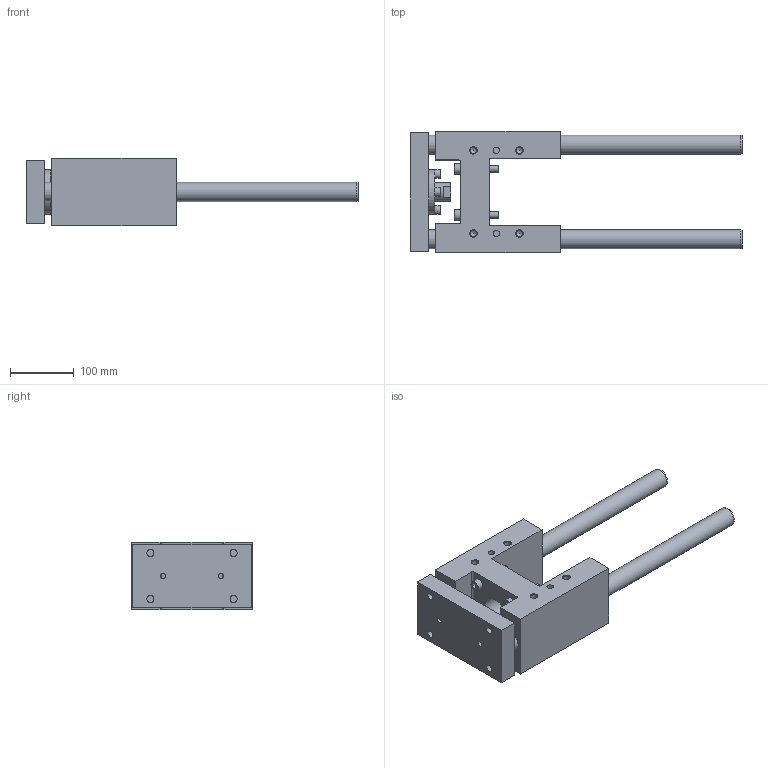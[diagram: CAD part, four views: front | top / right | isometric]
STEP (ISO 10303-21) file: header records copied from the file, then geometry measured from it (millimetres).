
FILE_DESCRIPTION( ( 'STEP AP214' ), '1' );
FILE_NAME( 'U:/Etudes/Top Solid/BIBLIO 3D AVM/TOP/PNEUMATIQUE/GUIDAGES/Type 32 (en H)/R_Renforcée/328R5130.step', '2005-05-27T09:11:19', ( ' ' ), ( ' ' ), 'XStep 1.0', ' ', ' ' );
FILE_SCHEMA( ( 'automotive_design' ) );
Length unit declared in the file: metre
Products named in the file (2): 1; 2
Bounding box: 519 x 189 x 105 mm (x, y, z)
Volume: 3126928.4 mm3; surface area: 378781 mm2
Topology: 2 solids, 7 shells, 209 faces, 472 edges, 313 vertices
Faces by surface type: plane 118, cylinder 70, cone 21
Full cylindrical faces by diameter (mm): 8 x10, 8.5 x4, 10 x10, 10.106 x12, 11 x8, 13 x4, 16 x4, 18 x4, 18.376 x2, 29 x1, 30 x4, 32 x1, 42 x1, 45 x2, 70 x1
Entity records: 7075 total; most frequent: CARTESIAN_POINT 1101, DIRECTION 894, ORIENTED_EDGE 690, EDGE_LOOP 362, AXIS2_PLACEMENT_3D 346, EDGE_CURVE 345, VERTEX_POINT 281, FACE_OUTER_BOUND 277
